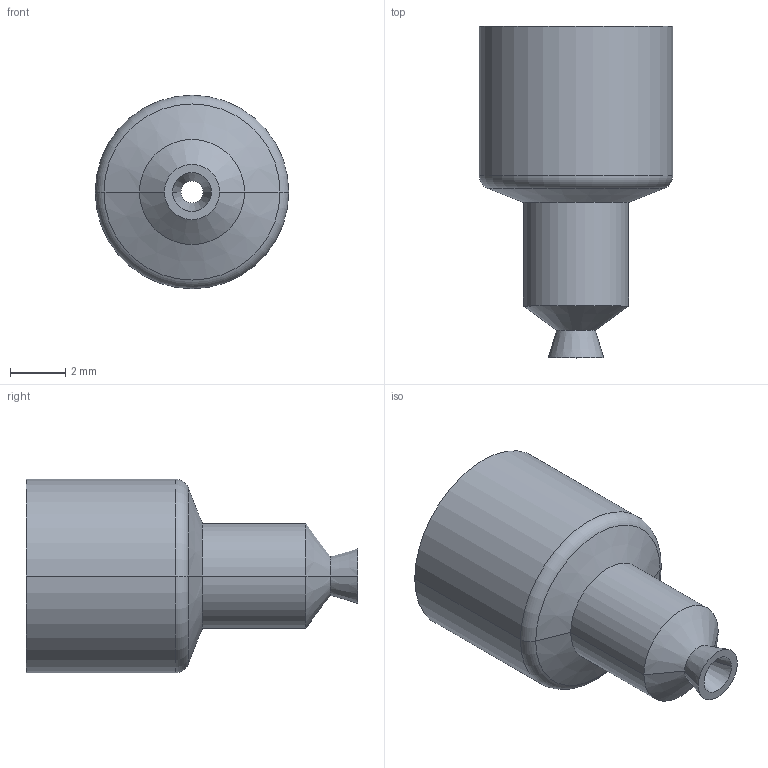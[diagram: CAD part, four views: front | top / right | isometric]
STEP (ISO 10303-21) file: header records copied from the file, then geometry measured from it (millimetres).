
FILE_DESCRIPTION (( 'STEP AP214' ), '1' );
FILE_NAME ('VSR-S2.STEP', '2019-11-18T08:33:29', ( '微软用户' ), ( '微软中国' ), 'SwSTEP 2.0', 'SolidWorks 2016', '' );
FILE_SCHEMA (( 'AUTOMOTIVE_DESIGN' ));
Length unit declared in the file: millimetre
Products named in the file (1): VSR-S2
Bounding box: 7 x 12 x 7 mm (x, y, z)
Volume: 163.9 mm3; surface area: 365.6 mm2
Topology: 1 solids, 1 shells, 23 faces, 46 edges, 26 vertices
Faces by surface type: cone 8, cylinder 8, torus 4, plane 3
Entity records: 636 total; most frequent: DIRECTION 124, CARTESIAN_POINT 96, ORIENTED_EDGE 92, AXIS2_PLACEMENT_3D 54, EDGE_CURVE 46, CIRCLE 30, EDGE_LOOP 26, VERTEX_POINT 26
